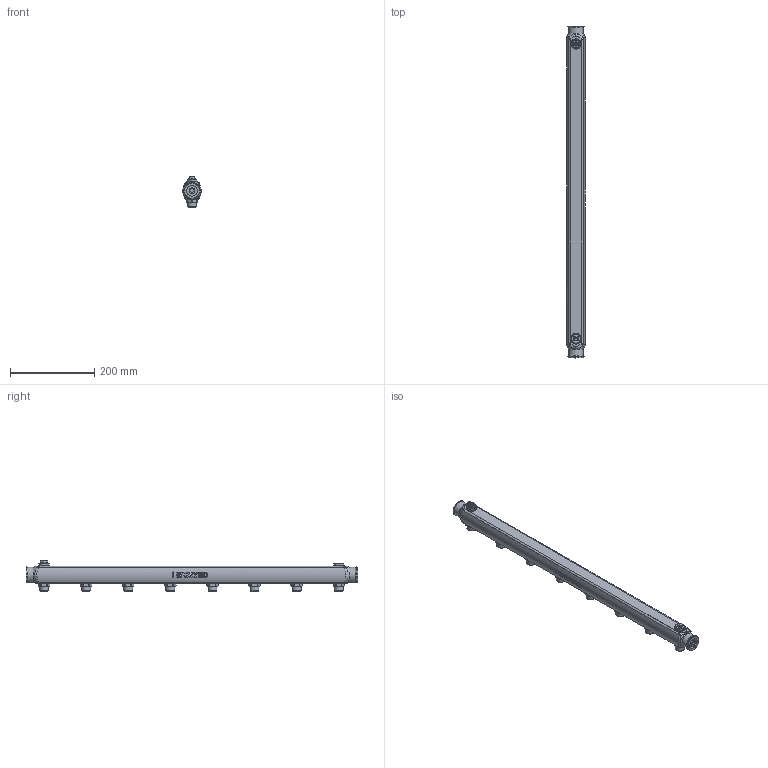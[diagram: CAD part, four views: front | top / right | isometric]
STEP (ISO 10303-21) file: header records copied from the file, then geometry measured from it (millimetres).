
FILE_DESCRIPTION(('STEP AP203'), '1');
FILE_NAME('覆.622621.028.000 捘 - VTc.510.SS.060408', '2024-08-21T13:33:50', ('Boss'), (''), 'C3D Converter', 'C3D Toolkit', '');
FILE_SCHEMA(('CONFIG_CONTROL_DESIGN'));
Length unit declared in the file: millimetre
Products named in the file (1): ВР.622621.028.000 СБ
Bounding box: 43 x 788.5 x 73 mm (x, y, z)
Volume: 240442.6 mm3; surface area: 246390.8 mm2
Topology: 1 solids, 1 shells, 1040 faces, 2685 edges, 1734 vertices
Faces by surface type: plane 396, extrusion 230, cylinder 190, cone 163, bspline 52, torus 9
Full cylindrical faces by diameter (mm): 1 x1, 5 x1, 5.3 x1, 10.2 x1, 12 x8, 13 x1, 14 x1, 20.955 x17, 22 x11, 24 x1, 25.5 x1, 26 x1, 28 x1, 30.292 x2, 35.5 x2, 37 x1
Entity records: 60055 total; most frequent: CARTESIAN_POINT 36688, ORIENTED_EDGE 5124, DIRECTION 3981, EDGE_CURVE 2562, VERTEX_POINT 1731, AXIS2_PLACEMENT_3D 1350, VECTOR 1281, EDGE_LOOP 1257
